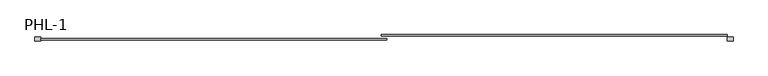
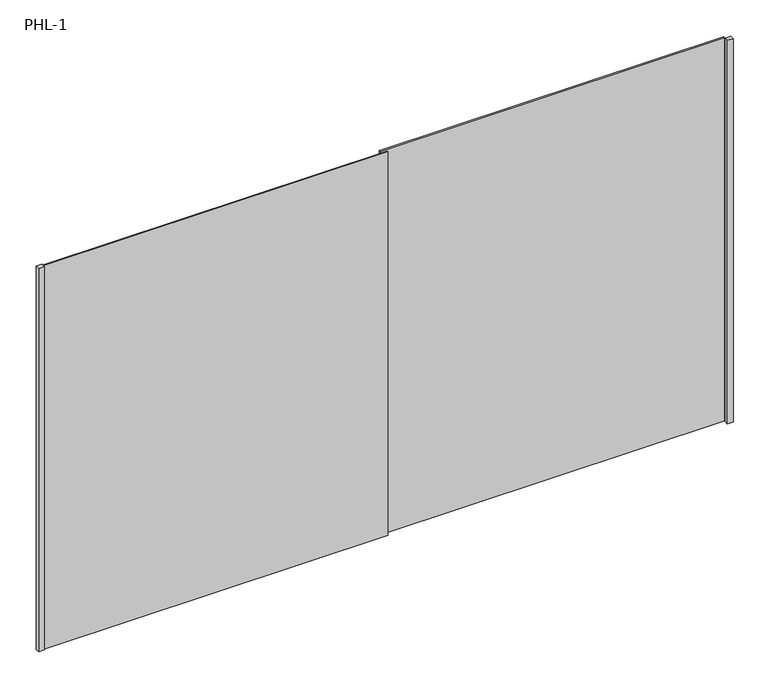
"""IFC4 building model written with IfcOpenShell, lengths in millimetres: furniture geometry, Puerta Closet corre 2 hojas : PHL-1."""

from ifc_helpers import new_model, si_unit, origin, origin_with_axes, place, context, project, spatial, polyline, outline, extrude, source, transform, mapped, element, save


def phl_1_91df993d(model_context):
    return source(origin(), model_context, "Body", "SweptSolid", [
        extrude(outline(polyline([(1275.0, 80.0), (1245.0, 80.0), (1245.0, 100.0), (1275.0, 100.0), (1275.0, 80.0)])), origin_with_axes(), (0.0, 0.0, 1.0), 2120.0),
        extrude(outline(polyline([(1245.0, 106.6666667), (-555.0, 106.6666667), (-555.0, 113.3333333), (1245.0, 113.3333333), (1245.0, 106.6666667)])), origin_with_axes(), (0.0, 0.0, 1.0), 2120.0),
        extrude(outline(polyline([(-525.0, 86.6666667), (-2325.0, 86.6666667), (-2325.0, 93.3333333), (-525.0, 93.3333333), (-525.0, 86.6666667)])), origin_with_axes(), (0.0, 0.0, 1.0), 2120.0),
        extrude(outline(polyline([(-2355.0, 80.0), (-2355.0, 100.0), (-2325.0, 100.0), (-2325.0, 80.0), (-2355.0, 80.0)])), origin_with_axes(), (0.0, 0.0, 1.0), 2120.0),
    ])


if __name__ == "__main__":
    model = new_model("IFC4")
    model_context = context("Model", 3, world=origin())
    ifc_project = project(units=[si_unit("LENGTHUNIT", "METRE", prefix="MILLI")], contexts=[model_context])
    site = spatial("IfcSite", under=ifc_project)
    building = spatial("IfcBuilding", under=site)
    placement = place(None, origin())
    phl_1_shape = phl_1_91df993d(model_context)
    element("IfcFurniture", 1, ObjectType="Puerta Closet corre 2 hojas : PHL-1", at=placement, inside=building, context=model_context, shape_type="MappedRepresentation", body=[
        mapped(phl_1_shape, transform((0.0, 0.0, 0.0), x_axis=(1.0, 0.0, 0.0), y_axis=(0.0, 1.0, 0.0), z_axis=(0.0, 0.0, 1.0))),
    ])
    save(model, "model.ifc")
